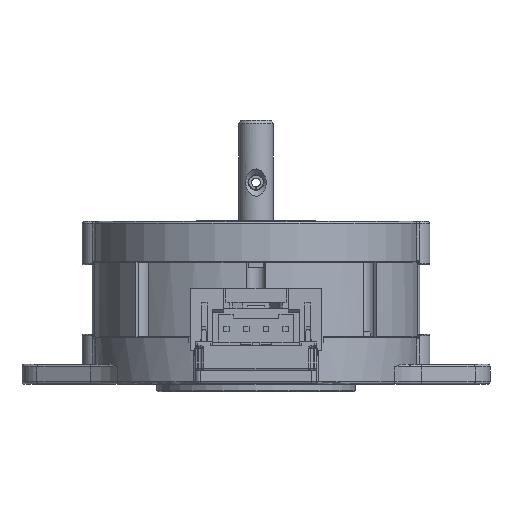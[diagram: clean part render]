
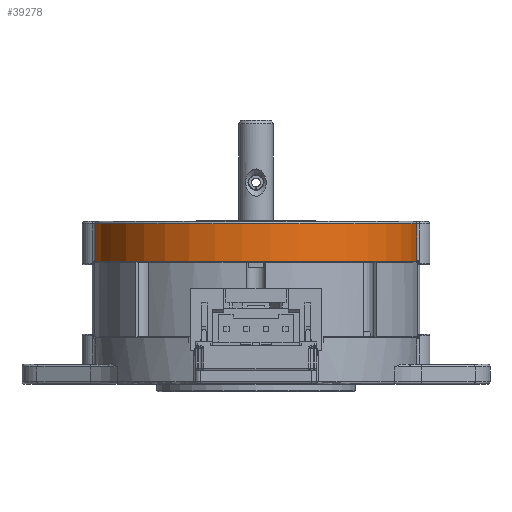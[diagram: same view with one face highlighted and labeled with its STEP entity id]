
A CAD part, front view. The second image highlights one B-rep face of the part: STEP entity #39278.
In plain terms, the highlighted cylindrical face has radius 32.5 mm (diameter 65 mm), a partial arc.
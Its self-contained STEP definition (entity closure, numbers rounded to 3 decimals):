
#900 = VECTOR ( 'NONE', #12767, 1000. ) ;
#1022 = CARTESIAN_POINT ( 'NONE',  ( -32.255, -3.981, 23.7 ) ) ;
#1129 = CYLINDRICAL_SURFACE ( 'NONE', #29995, 32.5 ) ;
#4662 = CARTESIAN_POINT ( 'NONE',  ( 32.255, -3.981, 31.7 ) ) ;
#6036 = CARTESIAN_POINT ( 'NONE',  ( 32.255, -3.981, 31.2 ) ) ;
#6240 = CIRCLE ( 'NONE', #35384, 32.5 ) ;
#6371 = VERTEX_POINT ( 'NONE', #6036 ) ;
#7250 = DIRECTION ( 'NONE',  ( 0., 0., -1. ) ) ;
#7949 = ORIENTED_EDGE ( 'NONE', *, *, #41267, .F. ) ;
#8801 = VECTOR ( 'NONE', #15269, 1000. ) ;
#8871 = CIRCLE ( 'NONE', #14276, 32.5 ) ;
#10011 = VERTEX_POINT ( 'NONE', #27559 ) ;
#12151 = CARTESIAN_POINT ( 'NONE',  ( 32.255, -3.981, 23.7 ) ) ;
#12767 = DIRECTION ( 'NONE',  ( 0., 0., -1. ) ) ;
#14276 = AXIS2_PLACEMENT_3D ( 'NONE', #38834, #38413, #28438 ) ;
#15269 = DIRECTION ( 'NONE',  ( 0., 0., 1. ) ) ;
#16836 = DIRECTION ( 'NONE',  ( -1., 0., 0. ) ) ;
#17574 = ORIENTED_EDGE ( 'NONE', *, *, #17890, .T. ) ;
#17890 = EDGE_CURVE ( 'NONE', #6371, #10011, #6240, .T. ) ;
#18398 = ORIENTED_EDGE ( 'NONE', *, *, #36849, .T. ) ;
#19660 = VERTEX_POINT ( 'NONE', #12151 ) ;
#20041 = DIRECTION ( 'NONE',  ( 0., 0., -1. ) ) ;
#22750 = CARTESIAN_POINT ( 'NONE',  ( -32.255, -3.981, 31.7 ) ) ;
#23044 = ORIENTED_EDGE ( 'NONE', *, *, #39525, .T. ) ;
#23183 = CARTESIAN_POINT ( 'NONE',  ( 0., 0., 31.2 ) ) ;
#23226 = CARTESIAN_POINT ( 'NONE',  ( 0., 0., 31.7 ) ) ;
#26028 = VERTEX_POINT ( 'NONE', #1022 ) ;
#26694 = EDGE_LOOP ( 'NONE', ( #7949, #18398, #17574, #23044 ) ) ;
#27559 = CARTESIAN_POINT ( 'NONE',  ( -32.255, -3.981, 31.2 ) ) ;
#28438 = DIRECTION ( 'NONE',  ( 1., 0., 0. ) ) ;
#28485 = LINE ( 'NONE', #22750, #900 ) ;
#29995 = AXIS2_PLACEMENT_3D ( 'NONE', #23226, #20041, #16836 ) ;
#30394 = FACE_OUTER_BOUND ( 'NONE', #26694, .T. ) ;
#35384 = AXIS2_PLACEMENT_3D ( 'NONE', #23183, #7250, #39501 ) ;
#36849 = EDGE_CURVE ( 'NONE', #19660, #6371, #36923, .T. ) ;
#36923 = LINE ( 'NONE', #4662, #8801 ) ;
#38413 = DIRECTION ( 'NONE',  ( 0., 0., -1. ) ) ;
#38834 = CARTESIAN_POINT ( 'NONE',  ( 0., 0., 23.7 ) ) ;
#39278 = ADVANCED_FACE ( 'NONE', ( #30394 ), #1129, .T. ) ;
#39501 = DIRECTION ( 'NONE',  ( 1., 0., 0. ) ) ;
#39525 = EDGE_CURVE ( 'NONE', #10011, #26028, #28485, .T. ) ;
#41267 = EDGE_CURVE ( 'NONE', #19660, #26028, #8871, .T. ) ;
